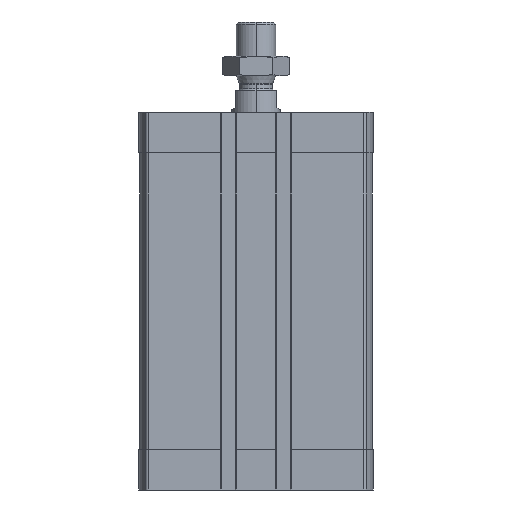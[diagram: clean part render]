
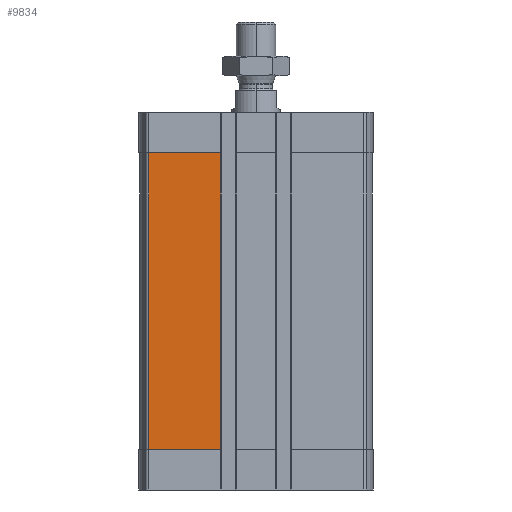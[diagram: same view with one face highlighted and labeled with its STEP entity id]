
A CAD part, left-side view. The second image highlights one B-rep face of the part: STEP entity #9834.
In plain terms, the highlighted planar face has unit normal (-1, 0, 0).
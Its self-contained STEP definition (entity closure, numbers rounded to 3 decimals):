
#40 = ORIENTED_EDGE ( 'NONE', *, *, #15214, .T. ) ;
#643 = VERTEX_POINT ( 'NONE', #5866 ) ;
#1018 = CARTESIAN_POINT ( 'NONE',  ( -47.5, 14.3, -137.5 ) ) ;
#1056 = DIRECTION ( 'NONE',  ( 0., 1., 0. ) ) ;
#2567 = VECTOR ( 'NONE', #4994, 1000. ) ;
#2748 = AXIS2_PLACEMENT_3D ( 'NONE', #10749, #12023, #4387 ) ;
#2752 = LINE ( 'NONE', #10073, #2567 ) ;
#3265 = VERTEX_POINT ( 'NONE', #6677 ) ;
#4387 = DIRECTION ( 'NONE',  ( 0., 0., 1. ) ) ;
#4796 = LINE ( 'NONE', #15535, #8852 ) ;
#4994 = DIRECTION ( 'NONE',  ( 0., -1., 0. ) ) ;
#5622 = PLANE ( 'NONE',  #2748 ) ;
#5833 = FACE_OUTER_BOUND ( 'NONE', #7018, .T. ) ;
#5866 = CARTESIAN_POINT ( 'NONE',  ( -47.5, 43.743, -16.5 ) ) ;
#6677 = CARTESIAN_POINT ( 'NONE',  ( -47.5, 14.3, -16.5 ) ) ;
#7018 = EDGE_LOOP ( 'NONE', ( #9759, #9464, #11869, #40 ) ) ;
#7467 = VERTEX_POINT ( 'NONE', #1018 ) ;
#7551 = VERTEX_POINT ( 'NONE', #8810 ) ;
#7701 = LINE ( 'NONE', #10282, #10918 ) ;
#8163 = DIRECTION ( 'NONE',  ( 0., 0., 1. ) ) ;
#8165 = EDGE_CURVE ( 'NONE', #7551, #7467, #2752, .T. ) ;
#8684 = CARTESIAN_POINT ( 'NONE',  ( -47.5, 0., -16.5 ) ) ;
#8810 = CARTESIAN_POINT ( 'NONE',  ( -47.5, 43.743, -137.5 ) ) ;
#8852 = VECTOR ( 'NONE', #8163, 1000. ) ;
#9464 = ORIENTED_EDGE ( 'NONE', *, *, #14590, .T. ) ;
#9759 = ORIENTED_EDGE ( 'NONE', *, *, #8165, .T. ) ;
#9834 = ADVANCED_FACE ( 'NONE', ( #5833 ), #5622, .T. ) ;
#10073 = CARTESIAN_POINT ( 'NONE',  ( -47.5, 43.743, -137.5 ) ) ;
#10282 = CARTESIAN_POINT ( 'NONE',  ( -47.5, 43.743, -137.5 ) ) ;
#10749 = CARTESIAN_POINT ( 'NONE',  ( -47.5, 43.743, -137.5 ) ) ;
#10918 = VECTOR ( 'NONE', #12685, 1000. ) ;
#11869 = ORIENTED_EDGE ( 'NONE', *, *, #13737, .T. ) ;
#12023 = DIRECTION ( 'NONE',  ( -1., 0., 0. ) ) ;
#12685 = DIRECTION ( 'NONE',  ( 0., 0., -1. ) ) ;
#13737 = EDGE_CURVE ( 'NONE', #3265, #643, #15172, .T. ) ;
#14590 = EDGE_CURVE ( 'NONE', #7467, #3265, #4796, .T. ) ;
#15172 = LINE ( 'NONE', #8684, #15555 ) ;
#15214 = EDGE_CURVE ( 'NONE', #643, #7551, #7701, .T. ) ;
#15535 = CARTESIAN_POINT ( 'NONE',  ( -47.5, 14.3, -137.5 ) ) ;
#15555 = VECTOR ( 'NONE', #1056, 1000. ) ;
